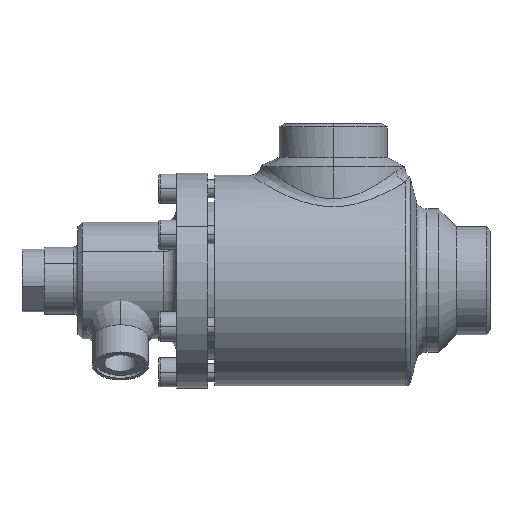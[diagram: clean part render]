
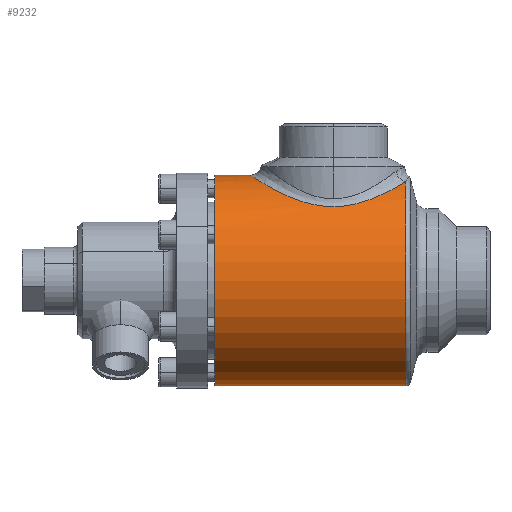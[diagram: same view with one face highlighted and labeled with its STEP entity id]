
A CAD part, left-side view. The second image highlights one B-rep face of the part: STEP entity #9232.
In plain terms, the highlighted cylindrical face has radius 47 mm (diameter 94 mm), a partial arc.
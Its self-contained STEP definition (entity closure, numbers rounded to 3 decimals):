
#351 = ORIENTED_EDGE ( 'NONE', *, *, #11751, .T. ) ;
#846 = EDGE_CURVE ( 'NONE', #1702, #11537, #2361, .T. ) ;
#1202 = ORIENTED_EDGE ( 'NONE', *, *, #846, .T. ) ;
#1415 = VERTEX_POINT ( 'NONE', #2986 ) ;
#1702 = VERTEX_POINT ( 'NONE', #3297 ) ;
#1914 = EDGE_CURVE ( 'NONE', #5447, #1702, #3462, .T. ) ;
#2264 = ORIENTED_EDGE ( 'NONE', *, *, #1914, .T. ) ;
#2361 = B_SPLINE_CURVE_WITH_KNOTS ( 'NONE', 3,
 ( #2362, #2363, #2364, #2365, #2366, #2367, #2368, #2369, #2370, #2371, #2372, #2374, #2375, #2376, #2377, #2378, #2379, #2380, #2381, #2382, #2383, #2384, #2385, #2386, #2387, #2388, #2389, #2391, #2392, #2393, #2394, #2395, #2396, #2397, #2398, #2399, #2400, #2401, #2402, #2403, #2404, #2405, #2406, #2408, #2409, #2410, #2411, #2412, #2413, #2414, #2415, #2416, #2417, #2418, #2419, #2420, #2421, #2422, #2423, #2425, #2426, #2427 ),
 .UNSPECIFIED., .F., .F.,
 ( 4, 2, 2, 2, 2, 2, 2, 2, 2, 2, 2, 2, 2, 2, 2, 2, 2, 2, 2, 2, 2, 2, 2, 2, 2, 2, 2, 2, 2, 2, 4 ),
 ( 0.017, 0.023, 0.026, 0.029, 0.035, 0.039, 0.04, 0.042, 0.048, 0.051, 0.052, 0.054, 0.06, 0.063, 0.066, 0.069, 0.072, 0.078, 0.081, 0.083, 0.084, 0.09, 0.093, 0.095, 0.096, 0.103, 0.106, 0.107, 0.109, 0.112, 0.115 ),
 .UNSPECIFIED. ) ;
#2362 = CARTESIAN_POINT ( 'NONE',  ( -16.073, -85.446, 44.166 ) ) ;
#2363 = CARTESIAN_POINT ( 'NONE',  ( -17.749, -84.43, 43.556 ) ) ;
#2364 = CARTESIAN_POINT ( 'NONE',  ( -19.293, -83.29, 42.887 ) ) ;
#2365 = CARTESIAN_POINT ( 'NONE',  ( -21.444, -81.41, 41.831 ) ) ;
#2366 = CARTESIAN_POINT ( 'NONE',  ( -22.133, -80.755, 41.469 ) ) ;
#2367 = CARTESIAN_POINT ( 'NONE',  ( -23.459, -79.389, 40.734 ) ) ;
#2368 = CARTESIAN_POINT ( 'NONE',  ( -24.096, -78.676, 40.359 ) ) ;
#2369 = CARTESIAN_POINT ( 'NONE',  ( -25.907, -76.48, 39.24 ) ) ;
#2370 = CARTESIAN_POINT ( 'NONE',  ( -26.989, -74.936, 38.497 ) ) ;
#2371 = CARTESIAN_POINT ( 'NONE',  ( -28.44, -72.491, 37.424 ) ) ;
#2372 = CARTESIAN_POINT ( 'NONE',  ( -28.894, -71.655, 37.073 ) ) ;
#2374 = CARTESIAN_POINT ( 'NONE',  ( -29.533, -70.366, 36.563 ) ) ;
#2375 = CARTESIAN_POINT ( 'NONE',  ( -29.739, -69.93, 36.396 ) ) ;
#2376 = CARTESIAN_POINT ( 'NONE',  ( -30.137, -69.047, 36.067 ) ) ;
#2377 = CARTESIAN_POINT ( 'NONE',  ( -30.328, -68.599, 35.906 ) ) ;
#2378 = CARTESIAN_POINT ( 'NONE',  ( -31.243, -66.344, 35.126 ) ) ;
#2379 = CARTESIAN_POINT ( 'NONE',  ( -31.842, -64.482, 34.576 ) ) ;
#2380 = CARTESIAN_POINT ( 'NONE',  ( -32.541, -61.591, 33.914 ) ) ;
#2381 = CARTESIAN_POINT ( 'NONE',  ( -32.74, -60.61, 33.721 ) ) ;
#2382 = CARTESIAN_POINT ( 'NONE',  ( -32.986, -59.111, 33.48 ) ) ;
#2383 = CARTESIAN_POINT ( 'NONE',  ( -33.059, -58.608, 33.408 ) ) ;
#2384 = CARTESIAN_POINT ( 'NONE',  ( -33.186, -57.603, 33.282 ) ) ;
#2385 = CARTESIAN_POINT ( 'NONE',  ( -33.239, -57.1, 33.229 ) ) ;
#2386 = CARTESIAN_POINT ( 'NONE',  ( -33.462, -54.583, 33.006 ) ) ;
#2387 = CARTESIAN_POINT ( 'NONE',  ( -33.49, -52.562, 32.976 ) ) ;
#2388 = CARTESIAN_POINT ( 'NONE',  ( -33.307, -49.52, 33.161 ) ) ;
#2389 = CARTESIAN_POINT ( 'NONE',  ( -33.207, -48.498, 33.262 ) ) ;
#2391 = CARTESIAN_POINT ( 'NONE',  ( -32.933, -46.49, 33.532 ) ) ;
#2392 = CARTESIAN_POINT ( 'NONE',  ( -32.761, -45.501, 33.702 ) ) ;
#2393 = CARTESIAN_POINT ( 'NONE',  ( -32.346, -43.55, 34.1 ) ) ;
#2394 = CARTESIAN_POINT ( 'NONE',  ( -32.103, -42.587, 34.33 ) ) ;
#2395 = CARTESIAN_POINT ( 'NONE',  ( -31.549, -40.688, 34.839 ) ) ;
#2396 = CARTESIAN_POINT ( 'NONE',  ( -31.237, -39.749, 35.121 ) ) ;
#2397 = CARTESIAN_POINT ( 'NONE',  ( -30.211, -37.009, 36.016 ) ) ;
#2398 = CARTESIAN_POINT ( 'NONE',  ( -29.406, -35.272, 36.683 ) ) ;
#2399 = CARTESIAN_POINT ( 'NONE',  ( -28.021, -32.781, 37.738 ) ) ;
#2400 = CARTESIAN_POINT ( 'NONE',  ( -27.529, -31.97, 38.099 ) ) ;
#2401 = CARTESIAN_POINT ( 'NONE',  ( -26.744, -30.781, 38.65 ) ) ;
#2402 = CARTESIAN_POINT ( 'NONE',  ( -26.475, -30.389, 38.835 ) ) ;
#2403 = CARTESIAN_POINT ( 'NONE',  ( -25.92, -29.615, 39.208 ) ) ;
#2404 = CARTESIAN_POINT ( 'NONE',  ( -25.634, -29.233, 39.396 ) ) ;
#2405 = CARTESIAN_POINT ( 'NONE',  ( -24.175, -27.357, 40.33 ) ) ;
#2406 = CARTESIAN_POINT ( 'NONE',  ( -22.902, -25.964, 41.072 ) ) ;
#2408 = CARTESIAN_POINT ( 'NONE',  ( -20.822, -24.029, 42.143 ) ) ;
#2409 = CARTESIAN_POINT ( 'NONE',  ( -20.099, -23.411, 42.494 ) ) ;
#2410 = CARTESIAN_POINT ( 'NONE',  ( -18.969, -22.523, 43.004 ) ) ;
#2411 = CARTESIAN_POINT ( 'NONE',  ( -18.584, -22.235, 43.172 ) ) ;
#2412 = CARTESIAN_POINT ( 'NONE',  ( -17.798, -21.671, 43.502 ) ) ;
#2413 = CARTESIAN_POINT ( 'NONE',  ( -17.396, -21.396, 43.664 ) ) ;
#2414 = CARTESIAN_POINT ( 'NONE',  ( -15.356, -20.064, 44.455 ) ) ;
#2415 = CARTESIAN_POINT ( 'NONE',  ( -13.635, -19.147, 45.018 ) ) ;
#2416 = CARTESIAN_POINT ( 'NONE',  ( -10.906, -18.006, 45.727 ) ) ;
#2417 = CARTESIAN_POINT ( 'NONE',  ( -9.972, -17.666, 45.94 ) ) ;
#2418 = CARTESIAN_POINT ( 'NONE',  ( -8.53, -17.219, 46.222 ) ) ;
#2419 = CARTESIAN_POINT ( 'NONE',  ( -8.041, -17.081, 46.31 ) ) ;
#2420 = CARTESIAN_POINT ( 'NONE',  ( -7.058, -16.829, 46.47 ) ) ;
#2421 = CARTESIAN_POINT ( 'NONE',  ( -6.563, -16.715, 46.542 ) ) ;
#2422 = CARTESIAN_POINT ( 'NONE',  ( -5.066, -16.41, 46.737 ) ) ;
#2423 = CARTESIAN_POINT ( 'NONE',  ( -4.049, -16.255, 46.836 ) ) ;
#2425 = CARTESIAN_POINT ( 'NONE',  ( -2.024, -16.051, 46.967 ) ) ;
#2426 = CARTESIAN_POINT ( 'NONE',  ( -1.011, -16., 47. ) ) ;
#2427 = CARTESIAN_POINT ( 'NONE',  ( 0., -16., 47. ) ) ;
#2491 = CARTESIAN_POINT ( 'NONE',  ( 0., -85.446, -47. ) ) ;
#2759 = ORIENTED_EDGE ( 'NONE', *, *, #7997, .F. ) ;
#2926 = CARTESIAN_POINT ( 'NONE',  ( 0., -16., 47. ) ) ;
#2986 = CARTESIAN_POINT ( 'NONE',  ( 0., 0., -47. ) ) ;
#3140 = LINE ( 'NONE', #3141, #3142 ) ;
#3141 = CARTESIAN_POINT ( 'NONE',  ( 0., -91., 47. ) ) ;
#3142 = VECTOR ( 'NONE', #3143, 1000. ) ;
#3143 = DIRECTION ( 'NONE',  ( 0., 1., 0. ) ) ;
#3297 = CARTESIAN_POINT ( 'NONE',  ( -16.073, -85.446, 44.166 ) ) ;
#3462 = CIRCLE ( 'NONE', #3463, 47. ) ;
#3463 = AXIS2_PLACEMENT_3D ( 'NONE', #3464, #3465, #3466 ) ;
#3464 = CARTESIAN_POINT ( 'NONE',  ( 0., -85.446, 0. ) ) ;
#3465 = DIRECTION ( 'NONE',  ( 0., 1., 0. ) ) ;
#3466 = DIRECTION ( 'NONE',  ( 0., 0., -1. ) ) ;
#3959 = CARTESIAN_POINT ( 'NONE',  ( 0., 0., 47. ) ) ;
#4814 = FACE_OUTER_BOUND ( 'NONE', #9107, .T. ) ;
#4815 = CYLINDRICAL_SURFACE ( 'NONE', #4816, 47. ) ;
#4816 = AXIS2_PLACEMENT_3D ( 'NONE', #4817, #4818, #4820 ) ;
#4817 = CARTESIAN_POINT ( 'NONE',  ( 0., -91., 0. ) ) ;
#4818 = DIRECTION ( 'NONE',  ( 0., 1., 0. ) ) ;
#4820 = DIRECTION ( 'NONE',  ( 0., 0., 1. ) ) ;
#4846 = LINE ( 'NONE', #4847, #4848 ) ;
#4847 = CARTESIAN_POINT ( 'NONE',  ( 0., -91., -47. ) ) ;
#4848 = VECTOR ( 'NONE', #4849, 1000. ) ;
#4849 = DIRECTION ( 'NONE',  ( 0., 1., 0. ) ) ;
#5294 = CIRCLE ( 'NONE', #5295, 47. ) ;
#5295 = AXIS2_PLACEMENT_3D ( 'NONE', #5296, #5297, #5298 ) ;
#5296 = CARTESIAN_POINT ( 'NONE',  ( 0., 0., 0. ) ) ;
#5297 = DIRECTION ( 'NONE',  ( 0., 1., 0. ) ) ;
#5298 = DIRECTION ( 'NONE',  ( 0., 0., 1. ) ) ;
#5447 = VERTEX_POINT ( 'NONE', #2491 ) ;
#7997 = EDGE_CURVE ( 'NONE', #5447, #1415, #4846, .T. ) ;
#9107 = EDGE_LOOP ( 'NONE', ( #2759, #2264, #1202, #351, #14561 ) ) ;
#9232 = ADVANCED_FACE ( 'NONE', ( #4814 ), #4815, .T. ) ;
#11537 = VERTEX_POINT ( 'NONE', #2926 ) ;
#11751 = EDGE_CURVE ( 'NONE', #11537, #12595, #3140, .T. ) ;
#12595 = VERTEX_POINT ( 'NONE', #3959 ) ;
#14216 = EDGE_CURVE ( 'NONE', #1415, #12595, #5294, .T. ) ;
#14561 = ORIENTED_EDGE ( 'NONE', *, *, #14216, .F. ) ;
